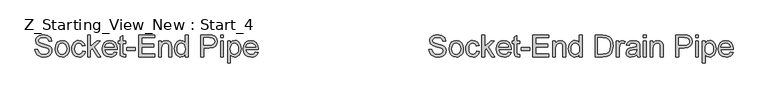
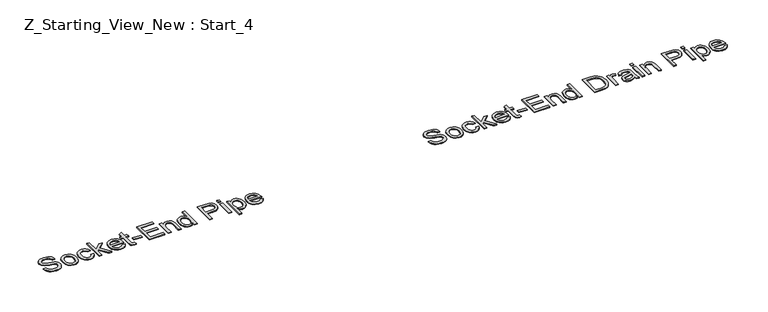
"""IFC4 building model written with IfcOpenShell, lengths in millimetres: pipe fitting geometry, Z_Starting_View_New : Start_4."""

from ifc_helpers import new_model, si_unit, origin, origin_with_axes, place, context, project, spatial, polyline, outline, extrude, source, transform, mapped, element, save


def z_starting_view_new_start_4_13a43d8e(model_context):
    return source(origin(), model_context, "Body", "SweptSolid", [
        extrude(outline(polyline([(24686.4040749, 7497.5835152), (24705.239633, 7497.5835152), (24711.3096859, 7478.7295629), (24726.1353303, 7466.8101863), (24748.7232848, 7462.2668436), (24768.4049716, 7465.7065403), (24781.1152945, 7475.1611076), (24785.2907552, 7487.7978541), (24782.1637582, 7499.5516839), (24769.3614648, 7508.1049402), (24741.935862, 7515.2970333), (24712.4133319, 7524.5860536), (24696.392071, 7538.6023576), (24691.1129644, 7557.3275512), (24692.7454408, 7568.3594125), (24697.6428698, 7578.6463128), (24705.6764929, 7587.3651161), (24716.7175513, 7593.6926864), (24744.6397947, 7598.8246403), (24774.4382363, 7593.4535631), (24785.8609723, 7586.8224902), (24794.303864, 7577.6714255), (24799.64735, 7566.5705863), (24801.7718685, 7554.0901896), (24782.9363104, 7554.0901896), (24779.4782196, 7565.3289846), (24772.2677325, 7573.4407826), (24761.0013464, 7578.3520072), (24745.3755587, 7579.9890821), (24729.3818889, 7578.3704013), (24718.4098084, 7573.514359), (24712.063844, 7566.3682512), (24709.9485226, 7557.8793742), (24711.4476417, 7550.6412959), (24715.9449991, 7544.8195634), (24746.6999339, 7534.2981383), (24780.0300426, 7524.843571), (24790.7675984, 7518.010163), (24798.2585955, 7509.5764682), (24802.6593839, 7499.6344573), (24804.1263133, 7488.2761007), (24802.4386547, 7476.6648252), (24797.3756787, 7465.7433285), (24789.1443191, 7456.3439435), (24777.9515094, 7449.2990033), (24764.4916269, 7444.898215), (24749.4590488, 7443.4312855), (24731.0051683, 7445.0131781), (24715.8162404, 7449.7588558), (24703.7175213, 7457.6867128), (24694.534267, 7468.8151432), (24688.638958, 7482.3715947), (24686.4040749, 7497.5835152)])), origin_with_axes(), (0.0, 0.0, 1.0), 5.0),
        extrude(outline(polyline([(24825.3163162, 7501.1151823), (24829.3906093, 7527.795824), (24841.6134886, 7546.5486087), (24856.7150445, 7555.7364616), (24874.7964446, 7558.7990792), (24894.5838974, 7555.0696755), (24910.3890276, 7543.8814643), (24920.7495043, 7526.1173624), (24924.2029965, 7502.6602867), (24922.6762863, 7483.6315905), (24918.0961554, 7469.146237), (24910.5959612, 7458.2983166), (24900.309061, 7450.1819201), (24888.0907802, 7445.1189441), (24874.7964446, 7443.4312855), (24854.7698685, 7447.1468936), (24838.9831324, 7458.2937181), (24828.7330203, 7476.4303005), (24825.3163162, 7501.1151823)]), holes=[polyline([(24844.1518744, 7501.1519705), (24846.3315752, 7484.1052386), (24852.8706777, 7471.9605342), (24862.711521, 7464.6902663), (24874.7964446, 7462.2668436), (24886.8261858, 7464.7040619), (24896.6486351, 7472.0157165), (24903.1877376, 7484.3213693), (24905.3674384, 7501.7405817), (24903.173942, 7518.290673), (24896.5934528, 7530.2698305), (24886.757208, 7537.5400984), (24874.7964446, 7539.963521), (24862.711521, 7537.5492954), (24852.8706777, 7530.3066187), (24846.3315752, 7518.1895054), (24844.1518744, 7501.1519705)])]), origin_with_axes(), (0.0, 0.0, 1.0), 5.0),
        extrude(outline(polyline([(25016.0263425, 7485.8112913), (25034.8619007, 7483.4568466), (25029.6103852, 7466.7044202), (25019.7419507, 7454.0446811), (25006.1854992, 7446.0846344), (24989.8699327, 7443.4312855), (24969.8341595, 7447.1330981), (24954.1669851, 7458.2385358), (24944.0548287, 7476.260155), (24940.6841099, 7500.7105121), (24942.1234482, 7517.4721356), (24946.4414632, 7531.9988758), (24953.7071326, 7543.729713), (24963.9894343, 7552.1036269), (24976.2904885, 7557.1252161), (24989.6124153, 7558.7990792), (25005.5279101, 7556.4998167), (25018.2520286, 7549.6020293), (25027.3801006, 7538.473599), (25032.5074559, 7523.4824076), (25013.6718978, 7521.1279629), (25004.9347004, 7535.2362374), (24989.7595681, 7539.963521), (24977.5872726, 7537.6366674), (24967.9257717, 7530.6561066), (24961.621194, 7518.6447594), (24959.5196681, 7501.2255469), (24961.5752087, 7483.5718097), (24967.7418307, 7471.5190758), (24977.2285876, 7464.5799017), (24989.2445333, 7462.2668436), (24998.9980047, 7463.7107805), (25006.9948396, 7468.042591), (25012.8119736, 7475.3726397), (25016.0263425, 7485.8112913)])), origin_with_axes(), (0.0, 0.0, 1.0), 5.0),
        extrude(outline(polyline([(25051.3430141, 7445.7857303), (25051.3430141, 7596.4701955), (25070.1785722, 7596.4701955), (25070.1785722, 7515.4993684), (25112.4114253, 7556.4446344), (25138.4574705, 7556.4446344), (25095.7095827, 7514.9843336), (25140.8119153, 7445.7857303), (25118.812572, 7445.7857303), (25082.2083135, 7501.8877345), (25070.1785722, 7490.2258753), (25070.1785722, 7445.7857303), (25051.3430141, 7445.7857303)])), origin_with_axes(), (0.0, 0.0, 1.0), 5.0),
        extrude(outline(polyline([(25234.7689769, 7478.747957), (25253.236653, 7476.3935123), (25246.5825874, 7462.4783758), (25235.9645934, 7452.0765124), (25221.6217941, 7445.5925922), (25203.7933129, 7443.4312855), (25181.692802, 7447.1606892), (25164.6874568, 7458.3489004), (25153.844135, 7476.2693521), (25150.2296944, 7500.1954774), (25153.8809232, 7524.9263445), (25164.8346096, 7543.4216118), (25181.6100286, 7554.9547123), (25202.7264551, 7558.7990792), (25223.1852925, 7554.9639094), (25239.5330487, 7543.4584), (25250.2522103, 7524.9999209), (25253.8252642, 7500.305842), (25253.7148996, 7495.2290704), (25169.0652525, 7495.2290704), (25172.3256067, 7481.129993), (25179.8993773, 7470.7649177), (25190.8300711, 7464.3913622), (25204.1611949, 7462.2668436), (25222.628871, 7466.203181), (25234.7689769, 7478.747957)]), holes=[polyline([(25169.0652525, 7514.0646286), (25234.9897061, 7514.0646286), (25232.4421233, 7524.0158365), (25227.4481252, 7531.1343531), (25216.4668476, 7537.7562291), (25202.6528787, 7539.963521), (25189.9563513, 7538.202286), (25179.4579189, 7532.9185808), (25172.1600598, 7524.6826227), (25169.0652525, 7514.0646286)])]), origin_with_axes(), (0.0, 0.0, 1.0), 5.0),
        extrude(outline(polyline([(25312.6863835, 7461.4942915), (25315.0408282, 7445.2339073), (25300.9509478, 7443.4312855), (25285.1688102, 7446.5582825), (25277.2961355, 7454.7620509), (25275.0152671, 7476.1359949), (25275.0152671, 7537.6090763), (25260.8885985, 7537.6090763), (25260.8885985, 7556.4446344), (25275.0152671, 7556.4446344), (25275.0152671, 7583.3368083), (25293.8508253, 7594.4100563), (25293.8508253, 7556.4446344), (25312.6863835, 7556.4446344), (25312.6863835, 7537.6090763), (25293.8508253, 7537.6090763), (25293.8508253, 7476.6878179), (25294.8441067, 7466.9757332), (25298.0630741, 7463.5360365), (25304.482615, 7462.2668436), (25312.6863835, 7461.4942915)])), origin_with_axes(), (0.0, 0.0, 1.0), 5.0),
        extrude(outline(polyline([(25322.1041625, 7490.5201809), (25322.1041625, 7509.355739), (25380.9652818, 7509.355739), (25380.9652818, 7490.5201809), (25322.1041625, 7490.5201809)])), origin_with_axes(), (0.0, 0.0, 1.0), 5.0),
        extrude(outline(polyline([(25404.5097294, 7445.7857303), (25404.5097294, 7596.4701955), (25512.8141888, 7596.4701955), (25512.8141888, 7577.6346373), (25423.3452876, 7577.6346373), (25423.3452876, 7532.9001867), (25508.1052993, 7532.9001867), (25508.1052993, 7514.0646286), (25423.3452876, 7514.0646286), (25423.3452876, 7464.6212884), (25515.1686336, 7464.6212884), (25515.1686336, 7445.7857303), (25404.5097294, 7445.7857303)])), origin_with_axes(), (0.0, 0.0, 1.0), 5.0),
        extrude(outline(polyline([(25541.0675261, 7445.7857303), (25541.0675261, 7556.4446344), (25559.9030842, 7556.4446344), (25559.9030842, 7540.9935906), (25574.3056643, 7554.347707), (25593.968957, 7558.7990792), (25611.7560514, 7555.2122297), (25623.8961573, 7545.7944507), (25629.5431459, 7531.9436935), (25630.5364273, 7513.7335348), (25630.5364273, 7445.7857303), (25611.7008691, 7445.7857303), (25611.7008691, 7511.195149), (25609.5303654, 7527.8602034), (25601.8600258, 7536.6709772), (25588.9289736, 7539.963521), (25577.8971123, 7538.114914), (25568.4931288, 7532.5690929), (25562.0505954, 7521.8545298), (25559.9030842, 7504.4996967), (25559.9030842, 7445.7857303), (25541.0675261, 7445.7857303)])), origin_with_axes(), (0.0, 0.0, 1.0), 5.0),
        extrude(outline(polyline([(25724.714218, 7445.7857303), (25724.714218, 7463.5544306), (25712.2522155, 7448.4620718), (25695.026141, 7443.4312855), (25682.849247, 7445.2523014), (25671.7024225, 7450.715349), (25662.2662494, 7459.4387508), (25655.2213092, 7471.0408292), (25650.8343164, 7485.0525347), (25649.3719854, 7501.0048177), (25654.7614567, 7530.9872003), (25661.4936972, 7542.8789858), (25670.9114763, 7551.6253803), (25682.3020225, 7557.0056545), (25694.9525646, 7558.7990792), (25712.3165948, 7553.6671254), (25724.714218, 7540.331403), (25724.714218, 7596.4701955), (25743.5497762, 7596.4701955), (25743.5497762, 7445.7857303), (25724.714218, 7445.7857303)]), holes=[polyline([(25668.2075436, 7501.0783941), (25670.3320621, 7484.0408592), (25676.7056177, 7471.923746), (25685.9670469, 7464.6810692), (25696.7551864, 7462.2668436), (25707.5387274, 7464.5707046), (25716.5656319, 7471.4822876), (25722.6770715, 7483.1303513), (25724.714218, 7499.6436544), (25722.6402833, 7517.6974633), (25716.4184791, 7530.2146482), (25707.1616484, 7537.5263028), (25695.9826342, 7539.963521), (25685.0841301, 7537.6228718), (25676.1537947, 7530.6009243), (25670.1941064, 7518.5389933), (25668.2075436, 7501.0783941)])]), origin_with_axes(), (0.0, 0.0, 1.0), 5.0),
        extrude(outline(polyline([(25833.0186774, 7445.7857303), (25833.0186774, 7596.4701955), (25885.0004033, 7596.4701955), (25911.8925772, 7594.2996917), (25934.0390733, 7583.5207493), (25944.4593308, 7572.042831), (25951.8813501, 7557.7690096), (25956.3235252, 7540.9751965), (25957.8042502, 7521.9373033), (25953.7943364, 7491.5318564), (25943.4936406, 7469.5876954), (25929.734854, 7455.9208792), (25911.7270303, 7448.3609042), (25887.5020009, 7445.7857303), (25833.0186774, 7445.7857303)]), holes=[polyline([(25851.8542356, 7464.6212884), (25885.1843443, 7464.6212884), (25909.4277678, 7467.3436152), (25923.4072836, 7475.0323489), (25934.8668078, 7493.7391483), (25938.968692, 7522.2316089), (25936.9591366, 7542.7594242), (25930.9304704, 7557.9161624), (25922.0231276, 7568.3272229), (25911.3775424, 7574.618005), (25884.6693096, 7577.6346373), (25851.8542356, 7577.6346373), (25851.8542356, 7464.6212884)])]), origin_with_axes(), (0.0, 0.0, 1.0), 5.0),
        extrude(outline(polyline([(25981.3486979, 7445.7857303), (25981.3486979, 7556.4446344), (25997.8298113, 7556.4446344), (25997.8298113, 7540.0738856), (26009.5284587, 7555.1570474), (26021.3006826, 7558.7990792), (26040.2098171, 7552.9865437), (26033.919035, 7536.1007601), (26020.6752832, 7539.963521), (26010.0250994, 7536.2479129), (26003.2376766, 7525.947217), (26000.184256, 7503.9478737), (26000.184256, 7445.7857303), (25981.3486979, 7445.7857303)])), origin_with_axes(), (0.0, 0.0, 1.0), 5.0),
        extrude(outline(polyline([(26122.615384, 7459.9123989), (26104.350043, 7447.1468936), (26084.1717155, 7443.4312855), (26068.4309647, 7445.6661686), (26056.8196892, 7452.370818), (26049.6597859, 7462.5519522), (26047.2731514, 7475.2162899), (26050.878395, 7490.1155107), (26060.3513563, 7500.9312413), (26073.5399259, 7507.1116589), (26089.8370983, 7509.9443502), (26122.5050194, 7516.4190733), (26122.615384, 7520.6129281), (26121.3186, 7529.0190317), (26117.4282479, 7534.5188675), (26108.7278387, 7538.6023576), (26096.606127, 7539.963521), (26077.5498396, 7536.3398834), (26068.4631543, 7523.4824076), (26049.6275962, 7525.8368524), (26057.7761824, 7544.2309522), (26074.1837194, 7555.0098946), (26099.0341481, 7558.7990792), (26121.8612259, 7555.451353), (26134.7554899, 7547.0452494), (26140.5312372, 7534.2613501), (26141.4509422, 7517.7802367), (26141.4509422, 7494.3461536), (26142.4074354, 7461.6230502), (26146.1598317, 7445.7857303), (26127.3242736, 7445.7857303), (26122.615384, 7459.9123989)]), holes=[polyline([(26122.615384, 7497.5835152), (26092.2283312, 7491.8077679), (26076.0231293, 7488.7543473), (26068.6838835, 7483.7879404), (26066.1087096, 7476.5406651), (26071.71891, 7466.3503338), (26088.1816293, 7462.2668436), (26107.2379166, 7466.7733981), (26119.5251753, 7477.6810992), (26122.5050194, 7492.2492263), (26122.615384, 7497.5835152)])]), origin_with_axes(), (0.0, 0.0, 1.0), 5.0),
        extrude(outline(polyline([(26167.3498346, 7577.6346373), (26167.3498346, 7596.4701955), (26186.1853928, 7596.4701955), (26186.1853928, 7577.6346373), (26167.3498346, 7577.6346373)])), origin_with_axes(), (0.0, 0.0, 1.0), 5.0),
        extrude(outline(polyline([(26167.3498346, 7445.7857303), (26167.3498346, 7556.4446344), (26186.1853928, 7556.4446344), (26186.1853928, 7445.7857303), (26167.3498346, 7445.7857303)])), origin_with_axes(), (0.0, 0.0, 1.0), 5.0),
        extrude(outline(polyline([(26214.43873, 7445.7857303), (26214.43873, 7556.4446344), (26233.2742882, 7556.4446344), (26233.2742882, 7540.9935906), (26247.6768683, 7554.347707), (26267.3401609, 7558.7990792), (26285.1272554, 7555.2122297), (26297.2673612, 7545.7944507), (26302.9143499, 7531.9436935), (26303.9076313, 7513.7335348), (26303.9076313, 7445.7857303), (26285.0720731, 7445.7857303), (26285.0720731, 7511.195149), (26282.9015693, 7527.8602034), (26275.2312297, 7536.6709772), (26262.3001776, 7539.963521), (26251.2683163, 7538.114914), (26241.8643328, 7532.5690929), (26235.4217993, 7521.8545298), (26233.2742882, 7504.4996967), (26233.2742882, 7445.7857303), (26214.43873, 7445.7857303)])), origin_with_axes(), (0.0, 0.0, 1.0), 5.0),
        extrude(outline(polyline([(26391.0220877, 7445.7857303), (26391.0220877, 7596.4701955), (26446.8665746, 7596.4701955), (26469.3809527, 7595.0354557), (26487.6830819, 7587.9905155), (26499.5472763, 7573.4223885), (26504.0354366, 7552.8761791), (26501.0050087, 7535.1166757), (26491.9137249, 7520.3186225), (26474.9129782, 7510.3306263), (26448.1541616, 7507.0012943), (26409.8576459, 7507.0012943), (26409.8576459, 7445.7857303), (26391.0220877, 7445.7857303)]), holes=[polyline([(26409.8576459, 7525.8368524), (26449.2578075, 7525.8368524), (26465.9596501, 7527.5658978), (26476.99611, 7532.7530339), (26483.1489364, 7541.0763641), (26485.1998785, 7552.2139915), (26480.3622302, 7567.8121881), (26467.6519073, 7576.3470504), (26448.8163492, 7577.6346373), (26409.8576459, 7577.6346373), (26409.8576459, 7525.8368524)])]), origin_with_axes(), (0.0, 0.0, 1.0), 5.0),
        extrude(outline(polyline([(26527.5798843, 7445.7857303), (26527.5798843, 7556.4446344), (26546.4154425, 7556.4446344), (26546.4154425, 7445.7857303), (26527.5798843, 7445.7857303)])), origin_with_axes(), (0.0, 0.0, 1.0), 5.0),
        extrude(outline(polyline([(26527.5798843, 7577.6346373), (26527.5798843, 7596.4701955), (26546.4154425, 7596.4701955), (26546.4154425, 7577.6346373), (26527.5798843, 7577.6346373)])), origin_with_axes(), (0.0, 0.0, 1.0), 5.0),
        extrude(outline(polyline([(26574.6687797, 7403.4057244), (26574.6687797, 7556.4446344), (26593.5043379, 7556.4446344), (26593.5043379, 7537.9769583), (26606.5273605, 7553.593549), (26624.1121199, 7558.7990792), (26636.8500339, 7556.9780633), (26647.9876613, 7551.5150157), (26657.0559525, 7542.7410301), (26663.5858579, 7530.9872003), (26668.8465705, 7501.9613109), (26667.3612469, 7485.8526781), (26662.9052762, 7471.4454994), (26655.6212127, 7459.4709405), (26645.6516107, 7450.6601667), (26634.0403352, 7445.2385058), (26621.8312515, 7443.4312855), (26605.4421086, 7448.2689337), (26593.5043379, 7460.5010101), (26593.5043379, 7403.4057244), (26574.6687797, 7403.4057244)]), holes=[polyline([(26593.5043379, 7500.2322656), (26595.5414844, 7483.346482), (26601.6529241, 7471.5374699), (26610.6706315, 7464.5845002), (26621.4265813, 7462.2668436), (26632.3572751, 7464.6672737), (26641.6049087, 7471.8685637), (26647.9094864, 7484.1098371), (26650.0110123, 7501.6302171), (26647.9600702, 7518.4240302), (26641.8072438, 7530.3985892), (26632.803332, 7537.5722881), (26622.1991335, 7539.963521), (26611.5535482, 7537.4205367), (26602.204747, 7529.7915839), (26595.6794402, 7517.3157857), (26593.5043379, 7500.2322656)])]), origin_with_axes(), (0.0, 0.0, 1.0), 5.0),
        extrude(outline(polyline([(26767.5125216, 7478.747957), (26785.9801977, 7476.3935123), (26779.3261321, 7462.4783758), (26768.7081381, 7452.0765124), (26754.3653388, 7445.5925922), (26736.5368576, 7443.4312855), (26714.4363467, 7447.1606892), (26697.4310015, 7458.3489004), (26686.5876797, 7476.2693521), (26682.9732391, 7500.1954774), (26686.6244679, 7524.9263445), (26697.5781543, 7543.4216118), (26714.3535733, 7554.9547123), (26735.4699998, 7558.7990792), (26755.9288373, 7554.9639094), (26772.2765934, 7543.4584), (26782.995755, 7524.9999209), (26786.5688089, 7500.305842), (26786.4584443, 7495.2290704), (26701.8087972, 7495.2290704), (26705.0691514, 7481.129993), (26712.642922, 7470.7649177), (26723.5736158, 7464.3913622), (26736.9047396, 7462.2668436), (26755.3724157, 7466.203181), (26767.5125216, 7478.747957)]), holes=[polyline([(26701.8087972, 7514.0646286), (26767.7332508, 7514.0646286), (26765.185668, 7524.0158365), (26760.1916699, 7531.1343531), (26749.2103923, 7537.7562291), (26735.3964234, 7539.963521), (26722.699896, 7538.202286), (26712.2014636, 7532.9185808), (26704.9036045, 7524.6826227), (26701.8087972, 7514.0646286)])]), origin_with_axes(), (0.0, 0.0, 1.0), 5.0),
        extrude(outline(polyline([(21965.40578, 7497.5835152), (21984.2413382, 7497.5835152), (21990.3113911, 7478.7295629), (22005.1370355, 7466.8101863), (22027.72499, 7462.2668436), (22047.4066767, 7465.7065403), (22060.1169997, 7475.1611076), (22064.2924603, 7487.7978541), (22061.1654633, 7499.5516839), (22048.3631699, 7508.1049402), (22020.9375672, 7515.2970333), (21991.4150371, 7524.5860536), (21975.3937762, 7538.6023576), (21970.1146695, 7557.3275512), (21971.7471459, 7568.3594125), (21976.644575, 7578.6463128), (21984.678198, 7587.3651161), (21995.7192564, 7593.6926864), (22023.6414998, 7598.8246403), (22053.4399414, 7593.4535631), (22064.8626774, 7586.8224902), (22073.3055692, 7577.6714255), (22078.6490552, 7566.5705863), (22080.7735737, 7554.0901896), (22061.9380155, 7554.0901896), (22058.4799248, 7565.3289846), (22051.2694377, 7573.4407826), (22040.0030516, 7578.3520072), (22024.3772638, 7579.9890821), (22008.3835941, 7578.3704013), (21997.4115136, 7573.514359), (21991.0655492, 7566.3682512), (21988.9502277, 7557.8793742), (21990.4493468, 7550.6412959), (21994.9467042, 7544.8195634), (22025.701639, 7534.2981383), (22059.0317478, 7524.843571), (22069.7693035, 7518.010163), (22077.2603006, 7509.5764682), (22081.661089, 7499.6344573), (22083.1280185, 7488.2761007), (22081.4403598, 7476.6648252), (22076.3773838, 7465.7433285), (22068.1460242, 7456.3439435), (22056.9532145, 7449.2990033), (22043.493332, 7444.898215), (22028.460754, 7443.4312855), (22010.0068734, 7445.0131781), (21994.8179455, 7449.7588558), (21982.7192264, 7457.6867128), (21973.5359721, 7468.8151432), (21967.6406631, 7482.3715947), (21965.40578, 7497.5835152)])), origin_with_axes(), (0.0, 0.0, 1.0), 5.0),
        extrude(outline(polyline([(22104.3180214, 7501.1151823), (22108.3923145, 7527.795824), (22120.6151938, 7546.5486087), (22135.7167497, 7555.7364616), (22153.7981497, 7558.7990792), (22173.5856025, 7555.0696755), (22189.3907328, 7543.8814643), (22199.7512095, 7526.1173624), (22203.2047017, 7502.6602867), (22201.6779914, 7483.6315905), (22197.0978606, 7469.146237), (22189.5976664, 7458.2983166), (22179.3107661, 7450.1819201), (22167.0924853, 7445.1189441), (22153.7981497, 7443.4312855), (22133.7715736, 7447.1468936), (22117.9848375, 7458.2937181), (22107.7347254, 7476.4303005), (22104.3180214, 7501.1151823)]), holes=[polyline([(22123.1535795, 7501.1519705), (22125.3332804, 7484.1052386), (22131.8723828, 7471.9605342), (22141.7132262, 7464.6902663), (22153.7981497, 7462.2668436), (22165.827891, 7464.7040619), (22175.6503402, 7472.0157165), (22182.1894427, 7484.3213693), (22184.3691435, 7501.7405817), (22182.1756471, 7518.290673), (22175.5951579, 7530.2698305), (22165.7589131, 7537.5400984), (22153.7981497, 7539.963521), (22141.7132262, 7537.5492954), (22131.8723828, 7530.3066187), (22125.3332804, 7518.1895054), (22123.1535795, 7501.1519705)])]), origin_with_axes(), (0.0, 0.0, 1.0), 5.0),
        extrude(outline(polyline([(22295.0280477, 7485.8112913), (22313.8636058, 7483.4568466), (22308.6120904, 7466.7044202), (22298.7436558, 7454.0446811), (22285.1872043, 7446.0846344), (22268.8716378, 7443.4312855), (22248.8358647, 7447.1330981), (22233.1686902, 7458.2385358), (22223.0565339, 7476.260155), (22219.6858151, 7500.7105121), (22221.1251534, 7517.4721356), (22225.4431683, 7531.9988758), (22232.7088377, 7543.729713), (22242.9911395, 7552.1036269), (22255.2921937, 7557.1252161), (22268.6141204, 7558.7990792), (22284.5296152, 7556.4998167), (22297.2537338, 7549.6020293), (22306.3818058, 7538.473599), (22311.5091611, 7523.4824076), (22292.6736029, 7521.1279629), (22283.9364055, 7535.2362374), (22268.7612732, 7539.963521), (22256.5889777, 7537.6366674), (22246.9274768, 7530.6561066), (22240.6228991, 7518.6447594), (22238.5213732, 7501.2255469), (22240.5769139, 7483.5718097), (22246.7435358, 7471.5190758), (22256.2302928, 7464.5799017), (22268.2462384, 7462.2668436), (22277.9997098, 7463.7107805), (22285.9965447, 7468.042591), (22291.8136787, 7475.3726397), (22295.0280477, 7485.8112913)])), origin_with_axes(), (0.0, 0.0, 1.0), 5.0),
        extrude(outline(polyline([(22330.3447192, 7445.7857303), (22330.3447192, 7596.4701955), (22349.1802774, 7596.4701955), (22349.1802774, 7515.4993684), (22391.4131304, 7556.4446344), (22417.4591757, 7556.4446344), (22374.7112878, 7514.9843336), (22419.8136204, 7445.7857303), (22397.8142771, 7445.7857303), (22361.2100186, 7501.8877345), (22349.1802774, 7490.2258753), (22349.1802774, 7445.7857303), (22330.3447192, 7445.7857303)])), origin_with_axes(), (0.0, 0.0, 1.0), 5.0),
        extrude(outline(polyline([(22513.770682, 7478.747957), (22532.2383582, 7476.3935123), (22525.5842926, 7462.4783758), (22514.9662985, 7452.0765124), (22500.6234992, 7445.5925922), (22482.795018, 7443.4312855), (22460.6945072, 7447.1606892), (22443.6891619, 7458.3489004), (22432.8458401, 7476.2693521), (22429.2313995, 7500.1954774), (22432.8826283, 7524.9263445), (22443.8363147, 7543.4216118), (22460.6117337, 7554.9547123), (22481.7281602, 7558.7990792), (22502.1869977, 7554.9639094), (22518.5347539, 7543.4584), (22529.2539155, 7524.9999209), (22532.8269694, 7500.305842), (22532.7166048, 7495.2290704), (22448.0669577, 7495.2290704), (22451.3273119, 7481.129993), (22458.9010824, 7470.7649177), (22469.8317762, 7464.3913622), (22483.1629, 7462.2668436), (22501.6305762, 7466.203181), (22513.770682, 7478.747957)]), holes=[polyline([(22448.0669577, 7514.0646286), (22513.9914112, 7514.0646286), (22511.4438284, 7524.0158365), (22506.4498303, 7531.1343531), (22495.4685528, 7537.7562291), (22481.6545838, 7539.963521), (22468.9580565, 7538.202286), (22458.459624, 7532.9185808), (22451.161765, 7524.6826227), (22448.0669577, 7514.0646286)])]), origin_with_axes(), (0.0, 0.0, 1.0), 5.0),
        extrude(outline(polyline([(22591.6880886, 7461.4942915), (22594.0425334, 7445.2339073), (22579.9526529, 7443.4312855), (22564.1705154, 7446.5582825), (22556.2978407, 7454.7620509), (22554.0169723, 7476.1359949), (22554.0169723, 7537.6090763), (22539.8903037, 7537.6090763), (22539.8903037, 7556.4446344), (22554.0169723, 7556.4446344), (22554.0169723, 7583.3368083), (22572.8525304, 7594.4100563), (22572.8525304, 7556.4446344), (22591.6880886, 7556.4446344), (22591.6880886, 7537.6090763), (22572.8525304, 7537.6090763), (22572.8525304, 7476.6878179), (22573.8458118, 7466.9757332), (22577.0647793, 7463.5360365), (22583.4843201, 7462.2668436), (22591.6880886, 7461.4942915)])), origin_with_axes(), (0.0, 0.0, 1.0), 5.0),
        extrude(outline(polyline([(22601.1058677, 7490.5201809), (22601.1058677, 7509.355739), (22659.9669869, 7509.355739), (22659.9669869, 7490.5201809), (22601.1058677, 7490.5201809)])), origin_with_axes(), (0.0, 0.0, 1.0), 5.0),
        extrude(outline(polyline([(22683.5114346, 7445.7857303), (22683.5114346, 7596.4701955), (22791.815894, 7596.4701955), (22791.815894, 7577.6346373), (22702.3469927, 7577.6346373), (22702.3469927, 7532.9001867), (22787.1070044, 7532.9001867), (22787.1070044, 7514.0646286), (22702.3469927, 7514.0646286), (22702.3469927, 7464.6212884), (22794.1703387, 7464.6212884), (22794.1703387, 7445.7857303), (22683.5114346, 7445.7857303)])), origin_with_axes(), (0.0, 0.0, 1.0), 5.0),
        extrude(outline(polyline([(22820.0692312, 7445.7857303), (22820.0692312, 7556.4446344), (22838.9047894, 7556.4446344), (22838.9047894, 7540.9935906), (22853.3073695, 7554.347707), (22872.9706621, 7558.7990792), (22890.7577566, 7555.2122297), (22902.8978624, 7545.7944507), (22908.544851, 7531.9436935), (22909.5381324, 7513.7335348), (22909.5381324, 7445.7857303), (22890.7025743, 7445.7857303), (22890.7025743, 7511.195149), (22888.5320705, 7527.8602034), (22880.8617309, 7536.6709772), (22867.9306788, 7539.963521), (22856.8988174, 7538.114914), (22847.4948339, 7532.5690929), (22841.0523005, 7521.8545298), (22838.9047894, 7504.4996967), (22838.9047894, 7445.7857303), (22820.0692312, 7445.7857303)])), origin_with_axes(), (0.0, 0.0, 1.0), 5.0),
        extrude(outline(polyline([(23003.7159232, 7445.7857303), (23003.7159232, 7463.5544306), (22991.2539206, 7448.4620718), (22974.0278462, 7443.4312855), (22961.8509521, 7445.2523014), (22950.7041277, 7450.715349), (22941.2679545, 7459.4387508), (22934.2230143, 7471.0408292), (22929.8360215, 7485.0525347), (22928.3736906, 7501.0048177), (22933.7631618, 7530.9872003), (22940.4954023, 7542.8789858), (22949.9131814, 7551.6253803), (22961.3037277, 7557.0056545), (22973.9542698, 7558.7990792), (22991.3183, 7553.6671254), (23003.7159232, 7540.331403), (23003.7159232, 7596.4701955), (23022.5514813, 7596.4701955), (23022.5514813, 7445.7857303), (23003.7159232, 7445.7857303)]), holes=[polyline([(22947.2092487, 7501.0783941), (22949.3337673, 7484.0408592), (22955.7073228, 7471.923746), (22964.968752, 7464.6810692), (22975.7568916, 7462.2668436), (22986.5404325, 7464.5707046), (22995.567337, 7471.4822876), (23001.6787766, 7483.1303513), (23003.7159232, 7499.6436544), (23001.6419884, 7517.6974633), (22995.4201842, 7530.2146482), (22986.1633535, 7537.5263028), (22974.9843394, 7539.963521), (22964.0858353, 7537.6228718), (22955.1554998, 7530.6009243), (22949.1958115, 7518.5389933), (22947.2092487, 7501.0783941)])]), origin_with_axes(), (0.0, 0.0, 1.0), 5.0),
        extrude(outline(polyline([(23112.0203826, 7445.7857303), (23112.0203826, 7596.4701955), (23167.8648694, 7596.4701955), (23190.3792475, 7595.0354557), (23208.6813768, 7587.9905155), (23220.5455711, 7573.4223885), (23225.0337315, 7552.8761791), (23222.0033036, 7535.1166757), (23212.9120197, 7520.3186225), (23195.911273, 7510.3306263), (23169.1524564, 7507.0012943), (23130.8559407, 7507.0012943), (23130.8559407, 7445.7857303), (23112.0203826, 7445.7857303)]), holes=[polyline([(23130.8559407, 7525.8368524), (23170.2561024, 7525.8368524), (23186.957945, 7527.5658978), (23197.9944048, 7532.7530339), (23204.1472312, 7541.0763641), (23206.1981733, 7552.2139915), (23201.3605251, 7567.8121881), (23188.6502022, 7576.3470504), (23169.814644, 7577.6346373), (23130.8559407, 7577.6346373), (23130.8559407, 7525.8368524)])]), origin_with_axes(), (0.0, 0.0, 1.0), 5.0),
        extrude(outline(polyline([(23248.5781792, 7445.7857303), (23248.5781792, 7556.4446344), (23267.4137373, 7556.4446344), (23267.4137373, 7445.7857303), (23248.5781792, 7445.7857303)])), origin_with_axes(), (0.0, 0.0, 1.0), 5.0),
        extrude(outline(polyline([(23248.5781792, 7577.6346373), (23248.5781792, 7596.4701955), (23267.4137373, 7596.4701955), (23267.4137373, 7577.6346373), (23248.5781792, 7577.6346373)])), origin_with_axes(), (0.0, 0.0, 1.0), 5.0),
        extrude(outline(polyline([(23295.6670746, 7403.4057244), (23295.6670746, 7556.4446344), (23314.5026327, 7556.4446344), (23314.5026327, 7537.9769583), (23327.5256553, 7553.593549), (23345.1104147, 7558.7990792), (23357.8483288, 7556.9780633), (23368.9859562, 7551.5150157), (23378.0542474, 7542.7410301), (23384.5841528, 7530.9872003), (23389.8448653, 7501.9613109), (23388.3595418, 7485.8526781), (23383.9035711, 7471.4454994), (23376.6195076, 7459.4709405), (23366.6499055, 7450.6601667), (23355.0386301, 7445.2385058), (23342.8295463, 7443.4312855), (23326.4404035, 7448.2689337), (23314.5026327, 7460.5010101), (23314.5026327, 7403.4057244), (23295.6670746, 7403.4057244)]), holes=[polyline([(23314.5026327, 7500.2322656), (23316.5397793, 7483.346482), (23322.6512189, 7471.5374699), (23331.6689263, 7464.5845002), (23342.4248761, 7462.2668436), (23353.3555699, 7464.6672737), (23362.6032036, 7471.8685637), (23368.9077813, 7484.1098371), (23371.0093072, 7501.6302171), (23368.9583651, 7518.4240302), (23362.8055387, 7530.3985892), (23353.8016269, 7537.5722881), (23343.1974283, 7539.963521), (23332.5518431, 7537.4205367), (23323.2030419, 7529.7915839), (23316.677735, 7517.3157857), (23314.5026327, 7500.2322656)])]), origin_with_axes(), (0.0, 0.0, 1.0), 5.0),
        extrude(outline(polyline([(23488.5108164, 7478.747957), (23506.9784926, 7476.3935123), (23500.324427, 7462.4783758), (23489.7064329, 7452.0765124), (23475.3636336, 7445.5925922), (23457.5351524, 7443.4312855), (23435.4346416, 7447.1606892), (23418.4292964, 7458.3489004), (23407.5859745, 7476.2693521), (23403.9715339, 7500.1954774), (23407.6227627, 7524.9263445), (23418.5764492, 7543.4216118), (23435.3518681, 7554.9547123), (23456.4682947, 7558.7990792), (23476.9271321, 7554.9639094), (23493.2748883, 7543.4584), (23503.9940499, 7524.9999209), (23507.5671038, 7500.305842), (23507.4567392, 7495.2290704), (23422.8070921, 7495.2290704), (23426.0674463, 7481.129993), (23433.6412169, 7470.7649177), (23444.5719106, 7464.3913622), (23457.9030344, 7462.2668436), (23476.3707106, 7466.203181), (23488.5108164, 7478.747957)]), holes=[polyline([(23422.8070921, 7514.0646286), (23488.7315456, 7514.0646286), (23486.1839628, 7524.0158365), (23481.1899647, 7531.1343531), (23470.2086872, 7537.7562291), (23456.3947183, 7539.963521), (23443.6981909, 7538.202286), (23433.1997585, 7532.9185808), (23425.9018994, 7524.6826227), (23422.8070921, 7514.0646286)])]), origin_with_axes(), (0.0, 0.0, 1.0), 5.0),
    ])


if __name__ == "__main__":
    model = new_model("IFC4")
    model_context = context("Model", 3, world=origin())
    ifc_project = project(units=[si_unit("LENGTHUNIT", "METRE", prefix="MILLI")], contexts=[model_context])
    site = spatial("IfcSite", under=ifc_project)
    building = spatial("IfcBuilding", under=site)
    placement = place(None, origin())
    z_starting_view_new_start_4_shape = z_starting_view_new_start_4_13a43d8e(model_context)
    element("IfcPipeFitting", 1, ObjectType="Z_Starting_View_New : Start_4", at=placement, inside=building, context=model_context, shape_type="MappedRepresentation", body=[
        mapped(z_starting_view_new_start_4_shape, transform((0.0, 0.0, 0.0), x_axis=(1.0, 0.0, 0.0), y_axis=(0.0, 1.0, 0.0), z_axis=(0.0, 0.0, 1.0))),
    ])
    save(model, "model.ifc")
